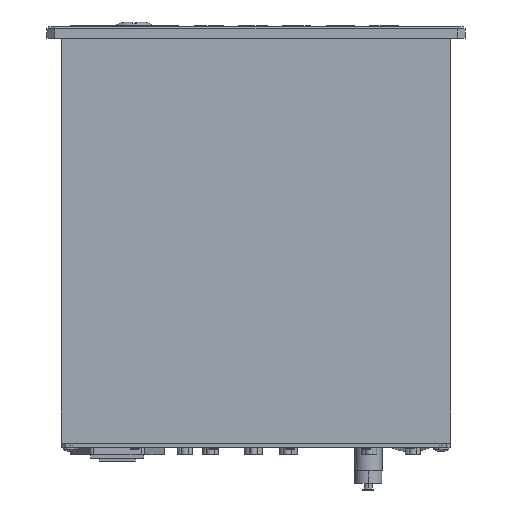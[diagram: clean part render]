
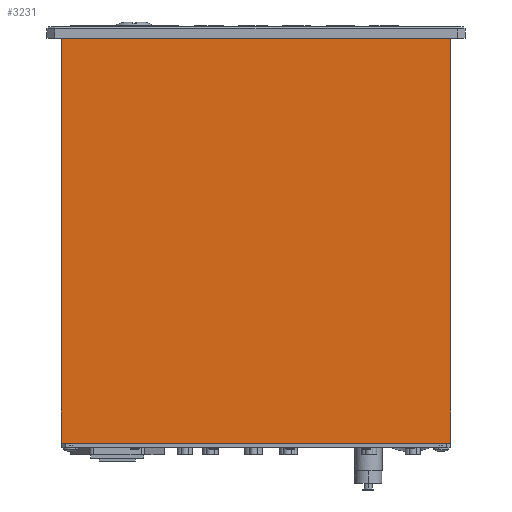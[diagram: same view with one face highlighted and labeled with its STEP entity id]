
A CAD part, front view. The second image highlights one B-rep face of the part: STEP entity #3231.
In plain terms, the highlighted planar face has unit normal (0, -1, 0).
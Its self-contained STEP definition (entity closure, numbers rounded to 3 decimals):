
#3231=ADVANCED_FACE('',(#8000),#8001,.T.);
#8000=FACE_OUTER_BOUND('',#14434,.T.);
#8001=PLANE('',#14435);
#14434=EDGE_LOOP('',(#25197,#25198,#25199,#25200));
#14435=AXIS2_PLACEMENT_3D('',#25201,#25202,#25203);
#25197=ORIENTED_EDGE('',*,*,#40754,.F.);
#25198=ORIENTED_EDGE('',*,*,#40755,.F.);
#25199=ORIENTED_EDGE('',*,*,#40655,.T.);
#25200=ORIENTED_EDGE('',*,*,#40752,.T.);
#25201=CARTESIAN_POINT('',(-102.5,-176.5,-213.));
#25202=DIRECTION('',(0.0,-1.0,0.0));
#25203=DIRECTION('',(0.0,0.0,-1.0));
#40655=EDGE_CURVE('',#49884,#49885,#49886,.T.);
#40752=EDGE_CURVE('',#49885,#50038,#50040,.T.);
#40754=EDGE_CURVE('',#50042,#50038,#50043,.T.);
#40755=EDGE_CURVE('',#49884,#50042,#50044,.T.);
#49884=VERTEX_POINT('',#63491);
#49885=VERTEX_POINT('',#63492);
#49886=LINE('',#63493,#63494);
#50038=VERTEX_POINT('',#63688);
#50040=LINE('',#63691,#63692);
#50042=VERTEX_POINT('',#63694);
#50043=LINE('',#63695,#63696);
#50044=LINE('',#63697,#63698);
#63491=CARTESIAN_POINT('',(-102.5,-176.5,-213.));
#63492=CARTESIAN_POINT('',(102.5,-176.5,-213.));
#63493=CARTESIAN_POINT('',(-102.5,-176.5,-213.));
#63494=VECTOR('',#77398,205.0);
#63688=CARTESIAN_POINT('',(102.5,-176.5,0.));
#63691=CARTESIAN_POINT('',(102.5,-176.5,-213.));
#63692=VECTOR('',#77541,213.);
#63694=CARTESIAN_POINT('',(-102.5,-176.5,0.));
#63695=CARTESIAN_POINT('',(-102.5,-176.5,0.));
#63696=VECTOR('',#77542,205.0);
#63697=CARTESIAN_POINT('',(-102.5,-176.5,-213.));
#63698=VECTOR('',#77543,213.);
#77398=DIRECTION('',(1.0,0.0,0.0));
#77541=DIRECTION('',(0.0,0.0,1.0));
#77542=DIRECTION('',(1.0,0.0,0.0));
#77543=DIRECTION('',(0.0,0.0,1.0));
